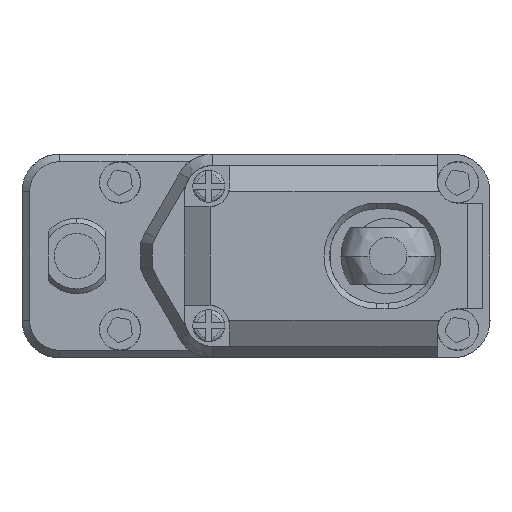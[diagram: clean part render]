
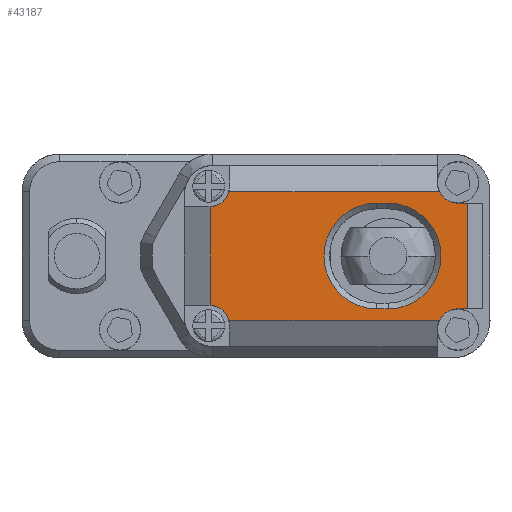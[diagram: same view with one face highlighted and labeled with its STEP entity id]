
A CAD part, front view. The second image highlights one B-rep face of the part: STEP entity #43187.
In plain terms, the highlighted planar face has unit normal (0, -1, 0).
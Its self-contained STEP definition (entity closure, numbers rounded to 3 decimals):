
#233 = VERTEX_POINT ( 'NONE', #43039 ) ;
#265 = DIRECTION ( 'NONE',  ( -1., 0., 0. ) ) ;
#873 = AXIS2_PLACEMENT_3D ( 'NONE', #1463, #39711, #16091 ) ;
#1463 = CARTESIAN_POINT ( 'NONE',  ( -2.5, 5.5, -3.7 ) ) ;
#1736 = ORIENTED_EDGE ( 'NONE', *, *, #56388, .F. ) ;
#1852 = CARTESIAN_POINT ( 'NONE',  ( 11., 5.5, 2.8 ) ) ;
#2817 = EDGE_CURVE ( 'NONE', #17887, #14607, #16462, .T. ) ;
#3200 = EDGE_CURVE ( 'NONE', #44913, #52837, #42198, .T. ) ;
#3862 = DIRECTION ( 'NONE',  ( 1., 0., 0. ) ) ;
#5238 = AXIS2_PLACEMENT_3D ( 'NONE', #46983, #46354, #31784 ) ;
#5534 = LINE ( 'NONE', #57477, #18333 ) ;
#5898 = EDGE_CURVE ( 'NONE', #28256, #21029, #44999, .T. ) ;
#7018 = ORIENTED_EDGE ( 'NONE', *, *, #15475, .T. ) ;
#7293 = CARTESIAN_POINT ( 'NONE',  ( -1.438, 5.5, 3.414 ) ) ;
#8988 = ORIENTED_EDGE ( 'NONE', *, *, #2817, .T. ) ;
#9559 = LINE ( 'NONE', #29489, #16759 ) ;
#10459 = CARTESIAN_POINT ( 'NONE',  ( 4.1, 5.5, 0. ) ) ;
#11195 = CARTESIAN_POINT ( 'NONE',  ( 11., 5.5, -2.8 ) ) ;
#11506 = ORIENTED_EDGE ( 'NONE', *, *, #48641, .T. ) ;
#11918 = CARTESIAN_POINT ( 'NONE',  ( 10.7, 5.5, 3.9 ) ) ;
#12062 = ORIENTED_EDGE ( 'NONE', *, *, #46560, .T. ) ;
#13493 = ORIENTED_EDGE ( 'NONE', *, *, #5898, .T. ) ;
#13955 = DIRECTION ( 'NONE',  ( 0., 1., 0. ) ) ;
#14607 = VERTEX_POINT ( 'NONE', #23271 ) ;
#14625 = CARTESIAN_POINT ( 'NONE',  ( 6.4, 5.5, 2.8 ) ) ;
#15456 = FACE_BOUND ( 'NONE', #50253, .T. ) ;
#15475 = EDGE_CURVE ( 'NONE', #21029, #46460, #45610, .T. ) ;
#15486 = DIRECTION ( 'NONE',  ( 1., 0., 0. ) ) ;
#16091 = DIRECTION ( 'NONE',  ( 1., 0., 0. ) ) ;
#16462 = LINE ( 'NONE', #11195, #44885 ) ;
#16759 = VECTOR ( 'NONE', #23888, 1000. ) ;
#16904 = CIRCLE ( 'NONE', #41733, 1.1 ) ;
#17116 = VECTOR ( 'NONE', #41286, 1000. ) ;
#17256 = CARTESIAN_POINT ( 'NONE',  ( 7., 5.5, -2.8 ) ) ;
#17307 = EDGE_CURVE ( 'NONE', #31370, #55261, #44481, .T. ) ;
#17887 = VERTEX_POINT ( 'NONE', #19168 ) ;
#18302 = CARTESIAN_POINT ( 'NONE',  ( 9.713, 5.5, 3.414 ) ) ;
#18333 = VECTOR ( 'NONE', #15486, 1000. ) ;
#18335 = ORIENTED_EDGE ( 'NONE', *, *, #29765, .T. ) ;
#18477 = CARTESIAN_POINT ( 'NONE',  ( 4.1, 5.5, -2.8 ) ) ;
#19168 = CARTESIAN_POINT ( 'NONE',  ( 10.7, 5.5, -2.8 ) ) ;
#19656 = ORIENTED_EDGE ( 'NONE', *, *, #55613, .T. ) ;
#19801 = CARTESIAN_POINT ( 'NONE',  ( 4.1, 5.5, -3.414 ) ) ;
#20837 = DIRECTION ( 'NONE',  ( 1., 0., 0. ) ) ;
#21029 = VERTEX_POINT ( 'NONE', #36280 ) ;
#21521 = VERTEX_POINT ( 'NONE', #17256 ) ;
#23015 = AXIS2_PLACEMENT_3D ( 'NONE', #28293, #13955, #265 ) ;
#23213 = CARTESIAN_POINT ( 'NONE',  ( -2.414, 5.5, 0. ) ) ;
#23271 = CARTESIAN_POINT ( 'NONE',  ( 11.2, 5.5, -2.8 ) ) ;
#23514 = EDGE_CURVE ( 'NONE', #14607, #31370, #9559, .T. ) ;
#23888 = DIRECTION ( 'NONE',  ( 0., 0., 1. ) ) ;
#24477 = VERTEX_POINT ( 'NONE', #7293 ) ;
#25673 = EDGE_CURVE ( 'NONE', #55261, #54003, #30379, .T. ) ;
#25829 = CARTESIAN_POINT ( 'NONE',  ( -2.414, 5.5, 2.603 ) ) ;
#26655 = CARTESIAN_POINT ( 'NONE',  ( 6.4, 5.5, -2.8 ) ) ;
#26850 = ORIENTED_EDGE ( 'NONE', *, *, #17307, .T. ) ;
#28256 = VERTEX_POINT ( 'NONE', #25829 ) ;
#28293 = CARTESIAN_POINT ( 'NONE',  ( 10.7, 5.5, -3.9 ) ) ;
#29179 = DIRECTION ( 'NONE',  ( -1., 0., 0. ) ) ;
#29489 = CARTESIAN_POINT ( 'NONE',  ( 11.2, 5.5, 0. ) ) ;
#29765 = EDGE_CURVE ( 'NONE', #24477, #28256, #16904, .T. ) ;
#30379 = CIRCLE ( 'NONE', #51148, 1.1 ) ;
#31370 = VERTEX_POINT ( 'NONE', #39911 ) ;
#31735 = AXIS2_PLACEMENT_3D ( 'NONE', #10459, #52472, #33232 ) ;
#31784 = DIRECTION ( 'NONE',  ( 0., 0., -1. ) ) ;
#32087 = CIRCLE ( 'NONE', #5238, 2.8 ) ;
#33232 = DIRECTION ( 'NONE',  ( 1., 0., 0. ) ) ;
#33828 = DIRECTION ( 'NONE',  ( 0., 1., 0. ) ) ;
#34094 = VECTOR ( 'NONE', #35747, 1000. ) ;
#35207 = CIRCLE ( 'NONE', #50106, 2.8 ) ;
#35747 = DIRECTION ( 'NONE',  ( -1., 0., 0. ) ) ;
#36280 = CARTESIAN_POINT ( 'NONE',  ( -2.414, 5.5, -2.603 ) ) ;
#36771 = EDGE_LOOP ( 'NONE', ( #56581, #38488, #18335, #13493, #7018, #1736, #12062, #8988, #39229, #26850 ) ) ;
#38465 = CARTESIAN_POINT ( 'NONE',  ( 10.7, 5.5, 2.8 ) ) ;
#38476 = LINE ( 'NONE', #19801, #45935 ) ;
#38488 = ORIENTED_EDGE ( 'NONE', *, *, #38640, .F. ) ;
#38640 = EDGE_CURVE ( 'NONE', #24477, #54003, #5534, .T. ) ;
#39229 = ORIENTED_EDGE ( 'NONE', *, *, #23514, .T. ) ;
#39711 = DIRECTION ( 'NONE',  ( 0., 1., 0. ) ) ;
#39911 = CARTESIAN_POINT ( 'NONE',  ( 11.2, 5.5, 2.8 ) ) ;
#41286 = DIRECTION ( 'NONE',  ( 1., 0., 0. ) ) ;
#41733 = AXIS2_PLACEMENT_3D ( 'NONE', #60477, #42148, #3862 ) ;
#42148 = DIRECTION ( 'NONE',  ( 0., 1., 0. ) ) ;
#42198 = LINE ( 'NONE', #46256, #17116 ) ;
#43039 = CARTESIAN_POINT ( 'NONE',  ( 9.713, 5.5, -3.414 ) ) ;
#43187 = ADVANCED_FACE ( 'NONE', ( #15456, #53077 ), #57136, .T. ) ;
#43458 = DIRECTION ( 'NONE',  ( 0., 0., -1. ) ) ;
#43874 = VECTOR ( 'NONE', #56740, 1000. ) ;
#44068 = CARTESIAN_POINT ( 'NONE',  ( 6.4, 5.5, 0. ) ) ;
#44481 = LINE ( 'NONE', #1852, #34094 ) ;
#44885 = VECTOR ( 'NONE', #20837, 1000. ) ;
#44913 = VERTEX_POINT ( 'NONE', #14625 ) ;
#44999 = LINE ( 'NONE', #23213, #55846 ) ;
#45610 = CIRCLE ( 'NONE', #873, 1.1 ) ;
#45823 = DIRECTION ( 'NONE',  ( -1., 0., 0. ) ) ;
#45935 = VECTOR ( 'NONE', #29179, 1000. ) ;
#46256 = CARTESIAN_POINT ( 'NONE',  ( 4.1, 5.5, 2.8 ) ) ;
#46354 = DIRECTION ( 'NONE',  ( 0., 1., 0. ) ) ;
#46460 = VERTEX_POINT ( 'NONE', #47882 ) ;
#46560 = EDGE_CURVE ( 'NONE', #233, #17887, #53811, .T. ) ;
#46983 = CARTESIAN_POINT ( 'NONE',  ( 7., 5.5, 0. ) ) ;
#47882 = CARTESIAN_POINT ( 'NONE',  ( -1.438, 5.5, -3.414 ) ) ;
#48157 = CARTESIAN_POINT ( 'NONE',  ( 7., 5.5, 2.8 ) ) ;
#48641 = EDGE_CURVE ( 'NONE', #52837, #21521, #32087, .T. ) ;
#50106 = AXIS2_PLACEMENT_3D ( 'NONE', #44068, #33828, #43458 ) ;
#50232 = VERTEX_POINT ( 'NONE', #26655 ) ;
#50253 = EDGE_LOOP ( 'NONE', ( #52305, #11506, #19656, #59015 ) ) ;
#50458 = DIRECTION ( 'NONE',  ( 0., 1., 0. ) ) ;
#51148 = AXIS2_PLACEMENT_3D ( 'NONE', #11918, #50458, #45823 ) ;
#52305 = ORIENTED_EDGE ( 'NONE', *, *, #3200, .T. ) ;
#52472 = DIRECTION ( 'NONE',  ( 0., -1., 0. ) ) ;
#52837 = VERTEX_POINT ( 'NONE', #48157 ) ;
#53077 = FACE_OUTER_BOUND ( 'NONE', #36771, .T. ) ;
#53811 = CIRCLE ( 'NONE', #23015, 1.1 ) ;
#54003 = VERTEX_POINT ( 'NONE', #18302 ) ;
#55261 = VERTEX_POINT ( 'NONE', #38465 ) ;
#55613 = EDGE_CURVE ( 'NONE', #21521, #50232, #61088, .T. ) ;
#55846 = VECTOR ( 'NONE', #56444, 1000. ) ;
#56388 = EDGE_CURVE ( 'NONE', #233, #46460, #38476, .T. ) ;
#56444 = DIRECTION ( 'NONE',  ( 0., 0., -1. ) ) ;
#56581 = ORIENTED_EDGE ( 'NONE', *, *, #25673, .T. ) ;
#56740 = DIRECTION ( 'NONE',  ( -1., 0., 0. ) ) ;
#57136 = PLANE ( 'NONE',  #31735 ) ;
#57477 = CARTESIAN_POINT ( 'NONE',  ( 4.1, 5.5, 3.414 ) ) ;
#59015 = ORIENTED_EDGE ( 'NONE', *, *, #59810, .T. ) ;
#59810 = EDGE_CURVE ( 'NONE', #50232, #44913, #35207, .T. ) ;
#60477 = CARTESIAN_POINT ( 'NONE',  ( -2.5, 5.5, 3.7 ) ) ;
#61088 = LINE ( 'NONE', #18477, #43874 ) ;
